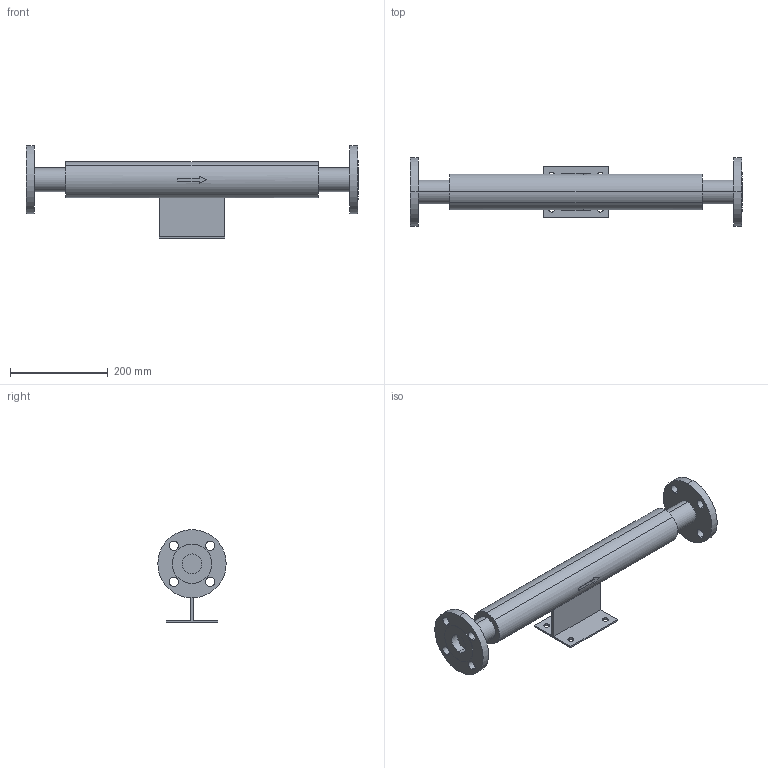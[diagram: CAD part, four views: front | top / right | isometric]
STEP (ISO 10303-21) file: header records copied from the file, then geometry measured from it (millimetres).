
FILE_DESCRIPTION( (''), '2;1');
FILE_NAME ('PC1276.11140.EB-2J 40A_1152.stp','2025-06-09T15:36:45',(''),(''),'spGate 20.6.3 (****-****-****-****)','','');
FILE_SCHEMA (('AUTOMOTIVE_DESIGN'));
Length unit declared in the file: millimetre
Bounding box: 680 x 140 x 190 mm (x, y, z)
Volume: 2951683.7 mm3; surface area: 273959.6 mm2
Topology: 1 solids, 1 shells, 77 faces, 194 edges, 130 vertices
Faces by surface type: cylinder 42, plane 35
Entity records: 3921 total; most frequent: CARTESIAN_POINT 451, DIRECTION 396, ORIENTED_EDGE 388, COLOUR_RGB 272, PRESENTATION_STYLE_ASSIGNMENT 272, STYLED_ITEM 272, EDGE_CURVE 194, DRAUGHTING_PRE_DEFINED_CURVE_FONT 194
